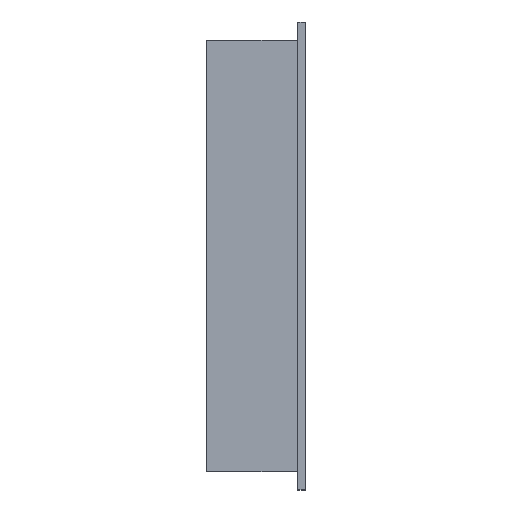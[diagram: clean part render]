
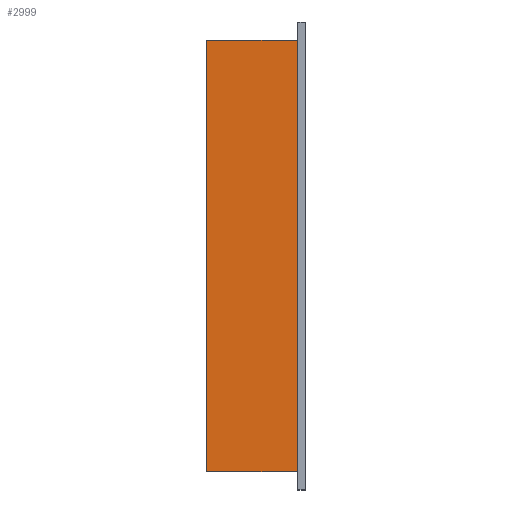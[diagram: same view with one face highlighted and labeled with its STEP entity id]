
A CAD part, left-side view. The second image highlights one B-rep face of the part: STEP entity #2999.
In plain terms, the highlighted planar face has unit normal (-1, 0, 0).
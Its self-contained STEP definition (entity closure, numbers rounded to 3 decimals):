
#106 = DIRECTION ( 'NONE',  ( 0., -1., 0. ) ) ;
#122 = LINE ( 'NONE', #2710, #400 ) ;
#285 = CARTESIAN_POINT ( 'NONE',  ( -98., 24.8, -58.7 ) ) ;
#390 = VECTOR ( 'NONE', #1926, 1000. ) ;
#400 = VECTOR ( 'NONE', #106, 1000. ) ;
#488 = EDGE_CURVE ( 'NONE', #1442, #1698, #726, .T. ) ;
#560 = FACE_OUTER_BOUND ( 'NONE', #2620, .T. ) ;
#672 = DIRECTION ( 'NONE',  ( 0., 1., 0. ) ) ;
#726 = LINE ( 'NONE', #3318, #1245 ) ;
#1149 = VERTEX_POINT ( 'NONE', #1725 ) ;
#1245 = VECTOR ( 'NONE', #2198, 1000. ) ;
#1325 = EDGE_CURVE ( 'NONE', #1149, #2264, #122, .T. ) ;
#1391 = VECTOR ( 'NONE', #3277, 1000. ) ;
#1425 = ORIENTED_EDGE ( 'NONE', *, *, #488, .T. ) ;
#1434 = ORIENTED_EDGE ( 'NONE', *, *, #1325, .F. ) ;
#1442 = VERTEX_POINT ( 'NONE', #3058 ) ;
#1698 = VERTEX_POINT ( 'NONE', #2721 ) ;
#1725 = CARTESIAN_POINT ( 'NONE',  ( -98., 24.8, 58.7 ) ) ;
#1820 = EDGE_CURVE ( 'NONE', #1698, #2264, #2471, .T. ) ;
#1908 = CARTESIAN_POINT ( 'NONE',  ( -98., 0.2, 58.7 ) ) ;
#1926 = DIRECTION ( 'NONE',  ( 0., 0., 1. ) ) ;
#2103 = EDGE_CURVE ( 'NONE', #1442, #1149, #3013, .T. ) ;
#2198 = DIRECTION ( 'NONE',  ( 0., -1., 0. ) ) ;
#2264 = VERTEX_POINT ( 'NONE', #1908 ) ;
#2377 = AXIS2_PLACEMENT_3D ( 'NONE', #285, #2590, #672 ) ;
#2439 = CARTESIAN_POINT ( 'NONE',  ( -98., 24.8, -58.7 ) ) ;
#2455 = CARTESIAN_POINT ( 'NONE',  ( -98., 0.2, -58.7 ) ) ;
#2471 = LINE ( 'NONE', #2455, #390 ) ;
#2590 = DIRECTION ( 'NONE',  ( 1., 0., 0. ) ) ;
#2620 = EDGE_LOOP ( 'NONE', ( #3272, #1434, #3155, #1425 ) ) ;
#2710 = CARTESIAN_POINT ( 'NONE',  ( -98., 24.8, 58.7 ) ) ;
#2721 = CARTESIAN_POINT ( 'NONE',  ( -98., 0.2, -58.7 ) ) ;
#2872 = PLANE ( 'NONE',  #2377 ) ;
#2999 = ADVANCED_FACE ( 'NONE', ( #560 ), #2872, .F. ) ;
#3013 = LINE ( 'NONE', #2439, #1391 ) ;
#3058 = CARTESIAN_POINT ( 'NONE',  ( -98., 24.8, -58.7 ) ) ;
#3155 = ORIENTED_EDGE ( 'NONE', *, *, #2103, .F. ) ;
#3272 = ORIENTED_EDGE ( 'NONE', *, *, #1820, .T. ) ;
#3277 = DIRECTION ( 'NONE',  ( 0., 0., 1. ) ) ;
#3318 = CARTESIAN_POINT ( 'NONE',  ( -98., 24.8, -58.7 ) ) ;
